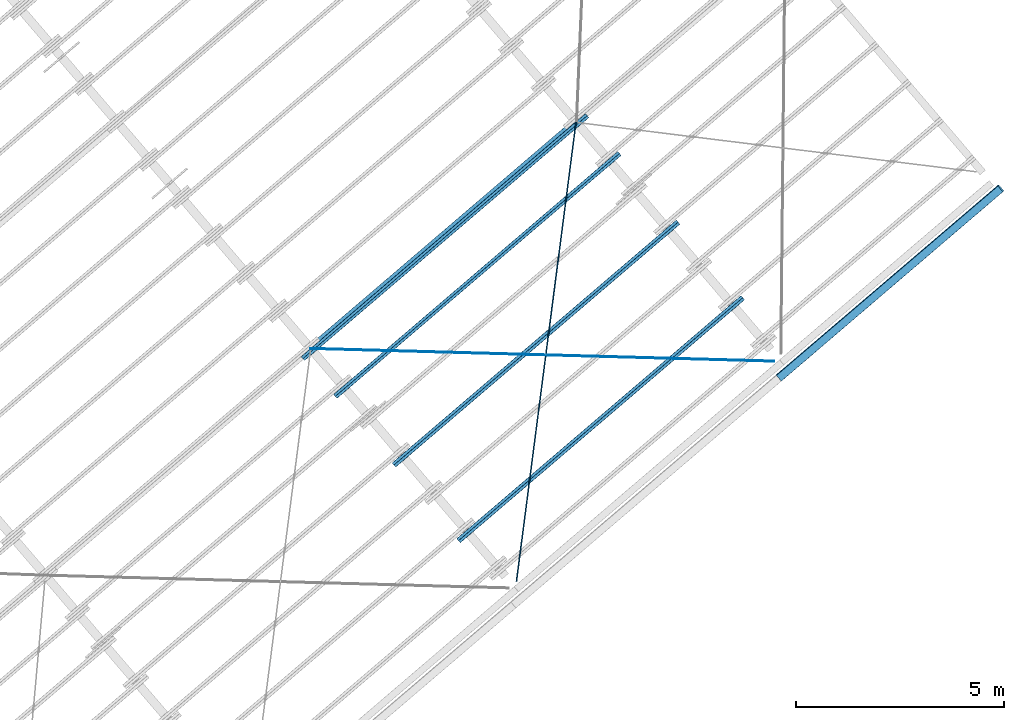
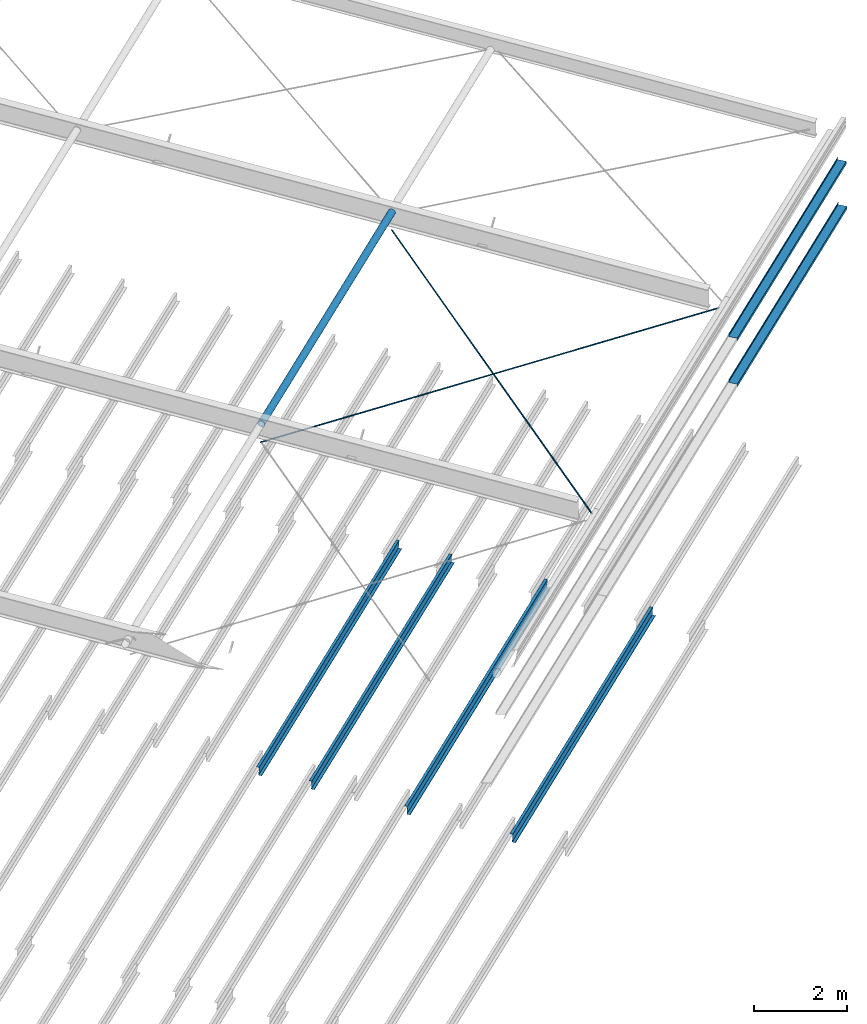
# One storey, part 15 of 25: 7 beams, 2 members, 2 elements without a shape of their own.
"""IFC2X3 building model written with IfcOpenShell, lengths in millimetres."""

from ifc_helpers import new_model, entity, si_unit, converted_unit, derived_unit, direction, frame, frame_2d, origin, origin_2d_with_axis, place, context, subcontext, project, spatial, polyline, circle_curve, parameter, trimmed, segment, composite_curve, circle, hollow_circle, outline, extrude, source, transform, mapped, material, type_object, type_shapes, element, aggregate, save


model = new_model("IFC2X3")

# Units and contexts
model_context = context("Model", 3, precision=0.01, world=origin(), true_north=direction((6.123031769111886e-17, 1.0)))
body_context = subcontext(model_context, "Body", "Model", "MODEL_VIEW")
ifc_project = project(units=[si_unit("LENGTHUNIT", "METRE", prefix="MILLI"), si_unit("AREAUNIT", "SQUARE_METRE"), si_unit("VOLUMEUNIT", "CUBIC_METRE"), converted_unit("PLANEANGLEUNIT", "DEGREE", entity("IfcRatioMeasure", 0.017453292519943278), si_unit("PLANEANGLEUNIT", "RADIAN"), dimensions=[0, 0, 0, 0, 0, 0, 0]), si_unit("MASSUNIT", "GRAM", prefix="KILO"), derived_unit("MASSDENSITYUNIT", [(si_unit("MASSUNIT", "GRAM", prefix="KILO"), 1), (si_unit("LENGTHUNIT", "METRE"), -3)]), derived_unit("MOMENTOFINERTIAUNIT", [(si_unit("LENGTHUNIT", "METRE"), 4)]), si_unit("TIMEUNIT", "SECOND"), si_unit("FREQUENCYUNIT", "HERTZ"), si_unit("THERMODYNAMICTEMPERATUREUNIT", "DEGREE_CELSIUS"), derived_unit("THERMALTRANSMITTANCEUNIT", [(si_unit("MASSUNIT", "GRAM", prefix="KILO"), 1), (si_unit("THERMODYNAMICTEMPERATUREUNIT", "KELVIN"), -1), (si_unit("TIMEUNIT", "SECOND"), -3)]), derived_unit("VOLUMETRICFLOWRATEUNIT", [(si_unit("LENGTHUNIT", "METRE"), 3), (si_unit("TIMEUNIT", "SECOND"), -1)]), derived_unit("MASSFLOWRATEUNIT", [(si_unit("MASSUNIT", "GRAM", prefix="KILO"), 1), (si_unit("TIMEUNIT", "SECOND"), -1)]), derived_unit("ROTATIONALFREQUENCYUNIT", [(si_unit("TIMEUNIT", "SECOND"), -1)]), si_unit("ELECTRICCURRENTUNIT", "AMPERE"), si_unit("ELECTRICVOLTAGEUNIT", "VOLT"), si_unit("POWERUNIT", "WATT"), si_unit("FORCEUNIT", "NEWTON", prefix="KILO"), si_unit("ILLUMINANCEUNIT", "LUX"), si_unit("LUMINOUSFLUXUNIT", "LUMEN"), si_unit("LUMINOUSINTENSITYUNIT", "CANDELA"), derived_unit("USERDEFINED", [(si_unit("MASSUNIT", "GRAM", prefix="KILO"), -1), (si_unit("LENGTHUNIT", "METRE"), -2), (si_unit("TIMEUNIT", "SECOND"), 3), (si_unit("LUMINOUSFLUXUNIT", "LUMEN"), 1)]), derived_unit("SOUNDPOWERUNIT", [(si_unit("MASSUNIT", "GRAM", prefix="KILO"), 1), (si_unit("LENGTHUNIT", "METRE"), 2), (si_unit("TIMEUNIT", "SECOND"), -3)]), derived_unit("LINEARVELOCITYUNIT", [(si_unit("LENGTHUNIT", "METRE"), 1), (si_unit("TIMEUNIT", "SECOND"), -1)]), si_unit("PRESSUREUNIT", "PASCAL"), derived_unit("USERDEFINED", [(si_unit("LENGTHUNIT", "METRE"), -2), (si_unit("MASSUNIT", "GRAM", prefix="KILO"), 1), (si_unit("TIMEUNIT", "SECOND"), -2)]), derived_unit("LINEARFORCEUNIT", [(si_unit("MASSUNIT", "GRAM", prefix="KILO"), 1), (si_unit("LENGTHUNIT", "METRE"), 1), (si_unit("TIMEUNIT", "SECOND"), -2), (si_unit("LENGTHUNIT", "METRE"), -1)]), derived_unit("PLANARFORCEUNIT", [(si_unit("MASSUNIT", "GRAM", prefix="KILO"), 1), (si_unit("LENGTHUNIT", "METRE"), 1), (si_unit("TIMEUNIT", "SECOND"), -2), (si_unit("LENGTHUNIT", "METRE"), -2)])], contexts=[model_context])

# Site, building, storey
site_placement = place(None, frame((962.4174930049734, -6014.433753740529, 0.0), z_axis=(0.0, 0.0, 1.0), x_axis=(0.7601792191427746, 0.649713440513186, 0.0)))
site = spatial("IfcSite", under=ifc_project, at=site_placement, Name="Default", CompositionType="ELEMENT")
building_placement = place(site_placement, origin())
building = spatial("IfcBuilding", under=site, at=building_placement, CompositionType="ELEMENT")
storey_placement = place(building_placement, frame((0.0, 0.0, 9200.0)))
storey = spatial("IfcBuildingStorey", under=building, at=storey_placement, Name="TOP OF CEILING", CompositionType="ELEMENT", Elevation=9200.000000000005)

# Beams
ifc_material_1 = material(Name="Metal - Steel - 300 MPa")
beam_type_1 = type_object("IfcBeamType", Name="ADSK_AU_CHS-Circular Hollow Sections (AS 1163_C350):168.3x6.4CHS", PredefinedType="NOTDEFINED")
beam_1_placement = place(storey_placement, frame((179138.9602047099, -18370.815582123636, 2557.8785563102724), z_axis=(0.0, 0.0, 1.0), x_axis=(-1.0, 0.0, 0.0)))
element("IfcBeam", 1, at=beam_1_placement, inside=storey, type_object=beam_type_1, material=ifc_material_1, Name="ADSK_AU_CHS-Circular Hollow Sections (AS 1163_C350):168.3x6.4CHS", ObjectType="ADSK_AU_CHS-Circular Hollow Sections (AS 1163_C350):168.3x6.4CHS", context=body_context, shape_type="SweptSolid", body=[
    extrude(hollow_circle(Radius=84.15000000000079, WallThickness=6.4000000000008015, at=origin_2d_with_axis()), frame((0.0, 0.0, -84.15000000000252), z_axis=(1.0, 0.0, 0.0), x_axis=(0.0, 1.0, 0.0)), (0.0, 0.0, 1.0), 8387.199999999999),
])
beam_type_2 = type_object("IfcBeamType", Name="ADSK_AU_Round Bars (AS 3679_1):24ROD", PredefinedType="NOTDEFINED")
beam_2_placement = place(storey_placement, frame((170738.96020471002, -18370.81558212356, 2010.0), z_axis=(0.013765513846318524, -0.012433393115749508, 0.9998279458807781), x_axis=(0.7419742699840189, -0.6701716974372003, -0.018549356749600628)))
element("IfcBeam", 2, at=beam_2_placement, inside=storey, type_object=beam_type_2, Name="ADSK_AU_Round Bars (AS 3679_1):24ROD", ObjectType="ADSK_AU_Round Bars (AS 3679_1):24ROD", context=body_context, shape_type="SweptSolid", body=[
    extrude(circle(Radius=11.999999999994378, at=frame_2d((1.6071956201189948e-12, 1.0799880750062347e-11), x_axis=(1.0, 0.0))), frame((-13.376352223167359, 0.0, -12.0), z_axis=(1.0, 0.0, 0.0), x_axis=(0.0, -1.0, 0.0)), (0.0, 0.0, 1.0), 11170.100000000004),
])
beam_3_placement = place(storey_placement, frame((179138.96020471, -18370.81558212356, 2010.0), z_axis=(-0.013765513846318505, -0.012433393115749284, 0.9998279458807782), x_axis=(-0.7419742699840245, -0.6701716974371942, -0.01854935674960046)))
element("IfcBeam", 3, at=beam_3_placement, inside=storey, type_object=beam_type_2, Name="ADSK_AU_Round Bars (AS 3679_1):24ROD", ObjectType="ADSK_AU_Round Bars (AS 3679_1):24ROD", context=body_context, shape_type="SweptSolid", body=[
    extrude(circle(Radius=11.999999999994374, at=frame_2d((-1.6071956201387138e-12, 1.0799880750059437e-11), x_axis=(1.0, 0.0))), frame((0.023647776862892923, 0.0, -12.0), z_axis=(1.0, 0.0, 0.0), x_axis=(0.0, -1.0, 0.0)), (0.0, 0.0, 1.0), 11156.700000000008),
])

# Assembly, beams
assembly_1_placement = place(storey_placement, origin())
assembly_1 = element("IfcElementAssembly", 4, at=assembly_1_placement, inside=storey, Name="Structural Beam System:Structural Beam System 1", ObjectType="Structural Beam System:Structural Beam System 1", AssemblyPlace="NOTDEFINED", PredefinedType="BEAM_GRID")
ifc_material_2 = material(Name="Metal - Steel - 345 MPa")
beam_type_3 = type_object("IfcBeamType", Name="ADSK_AU_Light Gauge-Zeds:Z20015", PredefinedType="NOTDEFINED")
beam_4_placement = place(building_placement, frame((179438.96020471, -18431.54781905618, 2901.1490110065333), z_axis=(0.0, 0.0, 1.0), x_axis=(-1.0, 0.0, 0.0)))
beam_4 = element("IfcBeam", 5, at=beam_4_placement, type_object=beam_type_3, material=ifc_material_2, Name="ADSK_AU_Light Gauge-Zeds:Z20015", ObjectType="ADSK_AU_Light Gauge-Zeds:Z20015", context=body_context, shape_type="SweptSolid", body=[
    extrude(outline(composite_curve([segment(polyline([(100.0, 1.0), (100.0, -69.0)]), True, "CONTINUOUS"), segment(trimmed(circle_curve(frame_2d((98.0, -69.0), x_axis=(0.0, -1.0)), 2.000000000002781), [parameter(0.0)], [parameter(89.99999999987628)], True, "PARAMETER"), False, "CONTINUOUS"), segment(polyline([(98.0, -71.0), (81.4999999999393, -71.0)]), True, "CONTINUOUS"), segment(polyline([(81.4999999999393, -71.0), (81.49999999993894, -72.50000000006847)]), True, "CONTINUOUS"), segment(polyline([(81.49999999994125, -72.50000000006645), (98.0, -72.50000000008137)]), True, "CONTINUOUS"), segment(trimmed(circle_curve(frame_2d((98.0, -69.0), x_axis=(1.0, 0.0)), 3.5000000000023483), [parameter(270.00000000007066)], [parameter(0.0)], True, "PARAMETER"), True, "CONTINUOUS"), segment(polyline([(101.49999999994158, -69.0), (101.50000000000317, 1.0)]), True, "CONTINUOUS"), segment(trimmed(circle_curve(frame_2d((98.0, 1.0), x_axis=(0.0, 1.0)), 3.500000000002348), [parameter(270.00000000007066)], [parameter(0.0)], True, "PARAMETER"), True, "CONTINUOUS"), segment(polyline([(98.0, 4.499999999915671), (-98.0, 4.500000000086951)]), True, "CONTINUOUS"), segment(trimmed(circle_curve(frame_2d((-98.0, 6.500000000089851), x_axis=(-1.0, 0.0)), 2.0000000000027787), [parameter(0.0)], [parameter(89.99999999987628)], True, "PARAMETER"), False, "CONTINUOUS"), segment(polyline([(-100.0, 6.500000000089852), (-100.0, 64.0)]), True, "CONTINUOUS"), segment(trimmed(circle_curve(frame_2d((-98.0, 64.0), x_axis=(0.0, 1.0)), 2.000000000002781), [parameter(0.0)], [parameter(89.99999999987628)], True, "PARAMETER"), False, "CONTINUOUS"), segment(polyline([(-98.0, 66.0), (-81.49999999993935, 66.0)]), True, "CONTINUOUS"), segment(polyline([(-81.49999999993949, 66.0), (-81.49999999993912, 67.50000000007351)]), True, "CONTINUOUS"), segment(polyline([(-81.49999999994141, 67.50000000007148), (-98.0, 67.50000000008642)]), True, "CONTINUOUS"), segment(trimmed(circle_curve(frame_2d((-98.0, 64.0), x_axis=(-1.0, 0.0)), 3.500000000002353), [parameter(270.00000000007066)], [parameter(0.0)], True, "PARAMETER"), True, "CONTINUOUS"), segment(polyline([(-101.49999999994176, 64.0), (-101.49999999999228, 6.500000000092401)]), True, "CONTINUOUS"), segment(trimmed(circle_curve(frame_2d((-98.0, 6.500000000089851), x_axis=(0.0, -1.0)), 3.5000000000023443), [parameter(270.00000000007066)], [parameter(0.0)], True, "PARAMETER"), True, "CONTINUOUS"), segment(polyline([(-98.0, 3.0), (98.0, 3.0)]), True, "CONTINUOUS"), segment(trimmed(circle_curve(frame_2d((98.0, 1.0), x_axis=(1.0, 0.0)), 2.000000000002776), [parameter(0.0)], [parameter(89.99999999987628)], True, "PARAMETER"), False, "CONTINUOUS")], self_intersect=False)), frame((0.0, -2.59124385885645, -101.56665523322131), z_axis=(-1.0, 0.0, 0.0), x_axis=(0.0, -0.06975647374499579, -0.9975640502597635)), (0.0, 0.0, -1.0), 9000.000000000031),
])
beam_5_placement = place(building_placement, frame((179438.96020471, -19628.624679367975, 2817.4412425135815), z_axis=(0.0, 0.0, 1.0), x_axis=(-1.0, 0.0, 0.0)))
beam_5 = element("IfcBeam", 6, at=beam_5_placement, type_object=beam_type_3, material=ifc_material_2, Name="ADSK_AU_Light Gauge-Zeds:Z20015", ObjectType="ADSK_AU_Light Gauge-Zeds:Z20015", context=body_context, shape_type="SweptSolid", body=[
    extrude(outline(composite_curve([segment(polyline([(100.0, 1.0), (100.0, -69.0)]), True, "CONTINUOUS"), segment(trimmed(circle_curve(frame_2d((98.0, -69.0), x_axis=(0.0, -1.0)), 1.9999999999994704), [parameter(0.0)], [parameter(90.00000000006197)], True, "PARAMETER"), False, "CONTINUOUS"), segment(polyline([(98.0, -71.0), (81.50000000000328, -71.0)]), True, "CONTINUOUS"), segment(polyline([(81.50000000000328, -71.0), (81.50000000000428, -72.49999999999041)]), True, "CONTINUOUS"), segment(polyline([(81.50000000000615, -72.4999999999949), (98.0, -72.49999999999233)]), True, "CONTINUOUS"), segment(trimmed(circle_curve(frame_2d((98.0, -69.0), x_axis=(1.0, 0.0)), 3.499999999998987), [parameter(269.99999999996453)], [parameter(0.0)], True, "PARAMETER"), True, "CONTINUOUS"), segment(polyline([(101.50000000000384, -69.0), (101.5000000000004, 1.0)]), True, "CONTINUOUS"), segment(trimmed(circle_curve(frame_2d((98.0, 1.0), x_axis=(0.0, 1.0)), 3.4999999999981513), [parameter(269.99999999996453)], [parameter(0.0)], True, "PARAMETER"), True, "CONTINUOUS"), segment(polyline([(98.0, 4.500000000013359), (-98.0, 4.500000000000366)]), True, "CONTINUOUS"), segment(trimmed(circle_curve(frame_2d((-98.0, 6.499999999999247), x_axis=(-1.0, 0.0)), 1.9999999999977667), [parameter(0.0)], [parameter(90.00000000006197)], True, "PARAMETER"), False, "CONTINUOUS"), segment(polyline([(-100.0, 6.499999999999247), (-100.0, 64.0)]), True, "CONTINUOUS"), segment(trimmed(circle_curve(frame_2d((-98.0, 64.0), x_axis=(0.0, 1.0)), 1.9999999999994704), [parameter(0.0)], [parameter(90.00000000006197)], True, "PARAMETER"), False, "CONTINUOUS"), segment(polyline([(-98.0, 66.0), (-81.50000000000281, 66.0)]), True, "CONTINUOUS"), segment(polyline([(-81.50000000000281, 66.0), (-81.50000000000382, 67.50000000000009)]), True, "CONTINUOUS"), segment(polyline([(-81.50000000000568, 67.50000000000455), (-98.0, 67.50000000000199)]), True, "CONTINUOUS"), segment(trimmed(circle_curve(frame_2d((-98.0, 64.0), x_axis=(-1.0, 0.0)), 3.499999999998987), [parameter(269.99999999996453)], [parameter(0.0)], True, "PARAMETER"), True, "CONTINUOUS"), segment(polyline([(-101.50000000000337, 64.0), (-101.50000000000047, 6.499999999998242)]), True, "CONTINUOUS"), segment(trimmed(circle_curve(frame_2d((-98.0, 6.499999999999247), x_axis=(0.0, -1.0)), 3.49999999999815), [parameter(269.99999999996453)], [parameter(0.0)], True, "PARAMETER"), True, "CONTINUOUS"), segment(polyline([(-98.0, 3.0), (98.0, 3.0)]), True, "CONTINUOUS"), segment(trimmed(circle_curve(frame_2d((98.0, 1.0), x_axis=(1.0, 0.0)), 1.9999999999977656), [parameter(0.0)], [parameter(90.00000000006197)], True, "PARAMETER"), False, "CONTINUOUS")], self_intersect=False)), frame((0.0, -2.591243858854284, -101.56665523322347), z_axis=(-1.0, 0.0, 0.0), x_axis=(0.0, -0.06975647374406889, -0.9975640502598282)), (0.0, 0.0, -1.0), 9000.000000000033),
])
aggregate(assembly_1, [beam_4, beam_5])

assembly_2_placement = place(storey_placement, origin())
assembly_2 = element("IfcElementAssembly", 7, at=assembly_2_placement, inside=storey, Name="Structural Beam System:Structural Beam System 1", ObjectType="Structural Beam System:Structural Beam System 1", AssemblyPlace="NOTDEFINED", PredefinedType="BEAM_GRID")
ifc_material_3 = material(Name="Metal - Light Gauge")
beam_type_4 = type_object("IfcBeamType", Name="ADSK_AU_Light Gauge-Zeds:Z20024", PredefinedType="NOTDEFINED")
beam_6_placement = place(building_placement, frame((179438.56020470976, -21800.485312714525, 2665.569952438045), z_axis=(0.0, 0.0, 1.0), x_axis=(-1.0, 0.0, 0.0)))
beam_6 = element("IfcBeam", 8, at=beam_6_placement, type_object=beam_type_4, material=ifc_material_3, Name="ADSK_AU_Light Gauge-Zeds:Z20024", ObjectType="ADSK_AU_Light Gauge-Zeds:Z20024", context=body_context, shape_type="SweptSolid", body=[
    extrude(outline(composite_curve([segment(polyline([(99.10000000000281, 1.0300000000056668), (99.10000000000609, -71.66999999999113)]), True, "CONTINUOUS"), segment(trimmed(circle_curve(frame_2d((97.10000000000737, -71.66999999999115), x_axis=(0.0, -1.0)), 1.9999999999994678), [parameter(0.0)], [parameter(90.00000000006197)], True, "PARAMETER"), False, "CONTINUOUS"), segment(polyline([(97.10000000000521, -73.66999999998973), (79.5000000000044, -73.66999999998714)]), True, "CONTINUOUS"), segment(polyline([(79.5000000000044, -73.66999999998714), (79.50000000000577, -76.06999999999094)]), True, "CONTINUOUS"), segment(polyline([(79.50000000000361, -76.06999999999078), (97.10000000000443, -76.06999999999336)]), True, "CONTINUOUS"), segment(trimmed(circle_curve(frame_2d((97.10000000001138, -71.66999999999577), x_axis=(1.0, 0.0)), 4.39999999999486), [parameter(269.9999999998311)], [parameter(0.0)], True, "PARAMETER"), True, "CONTINUOUS"), segment(polyline([(101.50000000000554, -71.66999999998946), (101.50000000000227, 1.030000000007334)]), True, "CONTINUOUS"), segment(trimmed(circle_curve(frame_2d((97.10000000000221, 1.030000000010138), x_axis=(0.0, 1.0)), 4.399999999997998), [parameter(269.9999999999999)], [parameter(0.0)], True, "PARAMETER"), True, "CONTINUOUS"), segment(polyline([(97.10000000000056, 5.430000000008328), (-97.09999999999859, 5.430000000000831)]), True, "CONTINUOUS"), segment(trimmed(circle_curve(frame_2d((-97.10000000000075, 7.429999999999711), x_axis=(-1.0, 0.0)), 1.9999999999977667), [parameter(0.0)], [parameter(90.00000000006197)], True, "PARAMETER"), False, "CONTINUOUS"), segment(polyline([(-99.09999999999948, 7.429999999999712), (-99.10000000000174, 66.02999999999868)]), True, "CONTINUOUS"), segment(trimmed(circle_curve(frame_2d((-97.10000000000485, 66.03000000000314), x_axis=(0.0, 1.0)), 1.9999999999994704), [parameter(0.0)], [parameter(90.00000000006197)], True, "PARAMETER"), False, "CONTINUOUS"), segment(polyline([(-97.1000000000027, 68.03000000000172), (-79.50000000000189, 68.02999999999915)]), True, "CONTINUOUS"), segment(polyline([(-79.50000000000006, 68.02999999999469), (-79.50000000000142, 70.42999999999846)]), True, "CONTINUOUS"), segment(polyline([(-79.50000000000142, 70.42999999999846), (-97.10000000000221, 70.43000000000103)]), True, "CONTINUOUS"), segment(trimmed(circle_curve(frame_2d((-97.10000000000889, 66.03000000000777), x_axis=(-1.0, 0.0)), 4.3999999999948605), [parameter(269.9999999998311)], [parameter(0.0)], True, "PARAMETER"), True, "CONTINUOUS"), segment(polyline([(-101.50000000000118, 66.029999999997), (-101.49999999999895, 7.429999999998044)]), True, "CONTINUOUS"), segment(trimmed(circle_curve(frame_2d((-97.10000000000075, 7.429999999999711), x_axis=(0.0, -1.0)), 4.399999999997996), [parameter(269.9999999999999)], [parameter(0.0)], True, "PARAMETER"), True, "CONTINUOUS"), segment(polyline([(-97.0999999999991, 3.030000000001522), (97.10000000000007, 3.030000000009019)]), True, "CONTINUOUS"), segment(trimmed(circle_curve(frame_2d((97.10000000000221, 1.030000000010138), x_axis=(1.0, 0.0)), 1.9999999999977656), [parameter(0.0)], [parameter(90.00000000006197)], True, "PARAMETER"), False, "CONTINUOUS")], self_intersect=False)), frame((0.0, -1.6635092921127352, -101.63152875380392), z_axis=(-1.0, 0.0, 0.0), x_axis=(0.0, -0.06975647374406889, -0.9975640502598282)), (0.0, 0.0, -1.0), 9000.000000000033),
])
beam_7_placement = place(building_placement, frame((179438.56020470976, -24194.639033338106, 2498.154415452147), z_axis=(0.0, 0.0, 1.0), x_axis=(-1.0, 0.0, 0.0)))
beam_7 = element("IfcBeam", 9, at=beam_7_placement, type_object=beam_type_4, material=ifc_material_3, Name="ADSK_AU_Light Gauge-Zeds:Z20024", ObjectType="ADSK_AU_Light Gauge-Zeds:Z20024", context=body_context, shape_type="SweptSolid", body=[
    extrude(outline(composite_curve([segment(polyline([(99.10000000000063, 1.0300000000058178), (99.10000000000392, -71.66999999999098)]), True, "CONTINUOUS"), segment(trimmed(circle_curve(frame_2d((97.1000000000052, -71.66999999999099), x_axis=(0.0, -1.0)), 1.9999999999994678), [parameter(0.0)], [parameter(90.00000000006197)], True, "PARAMETER"), False, "CONTINUOUS"), segment(polyline([(97.10000000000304, -73.66999999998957), (79.50000000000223, -73.66999999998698)]), True, "CONTINUOUS"), segment(polyline([(79.50000000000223, -73.66999999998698), (79.5000000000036, -76.06999999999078)]), True, "CONTINUOUS"), segment(polyline([(79.50000000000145, -76.06999999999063), (97.10000000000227, -76.0699999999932)]), True, "CONTINUOUS"), segment(trimmed(circle_curve(frame_2d((97.10000000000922, -71.66999999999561), x_axis=(1.0, 0.0)), 4.39999999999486), [parameter(269.9999999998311)], [parameter(0.0)], True, "PARAMETER"), True, "CONTINUOUS"), segment(polyline([(101.50000000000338, -71.66999999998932), (101.50000000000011, 1.030000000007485)]), True, "CONTINUOUS"), segment(trimmed(circle_curve(frame_2d((97.10000000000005, 1.0300000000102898), x_axis=(0.0, 1.0)), 4.399999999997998), [parameter(269.9999999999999)], [parameter(0.0)], True, "PARAMETER"), True, "CONTINUOUS"), segment(polyline([(97.09999999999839, 5.43000000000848), (-97.10000000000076, 5.430000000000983)]), True, "CONTINUOUS"), segment(trimmed(circle_curve(frame_2d((-97.10000000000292, 7.429999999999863), x_axis=(-1.0, 0.0)), 1.9999999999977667), [parameter(0.0)], [parameter(90.00000000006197)], True, "PARAMETER"), False, "CONTINUOUS"), segment(polyline([(-99.10000000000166, 7.429999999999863), (-99.1000000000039, 66.02999999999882)]), True, "CONTINUOUS"), segment(trimmed(circle_curve(frame_2d((-97.10000000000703, 66.0300000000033), x_axis=(0.0, 1.0)), 1.9999999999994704), [parameter(0.0)], [parameter(90.00000000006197)], True, "PARAMETER"), False, "CONTINUOUS"), segment(polyline([(-97.10000000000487, 68.03000000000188), (-79.50000000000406, 68.0299999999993)]), True, "CONTINUOUS"), segment(polyline([(-79.50000000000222, 68.02999999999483), (-79.50000000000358, 70.42999999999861)]), True, "CONTINUOUS"), segment(polyline([(-79.50000000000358, 70.42999999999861), (-97.10000000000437, 70.43000000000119)]), True, "CONTINUOUS"), segment(trimmed(circle_curve(frame_2d((-97.10000000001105, 66.03000000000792), x_axis=(-1.0, 0.0)), 4.3999999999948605), [parameter(269.9999999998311)], [parameter(0.0)], True, "PARAMETER"), True, "CONTINUOUS"), segment(polyline([(-101.50000000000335, 66.02999999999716), (-101.50000000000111, 7.429999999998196)]), True, "CONTINUOUS"), segment(trimmed(circle_curve(frame_2d((-97.10000000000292, 7.429999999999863), x_axis=(0.0, -1.0)), 4.399999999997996), [parameter(269.9999999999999)], [parameter(0.0)], True, "PARAMETER"), True, "CONTINUOUS"), segment(polyline([(-97.10000000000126, 3.030000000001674), (97.09999999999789, 3.03000000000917)]), True, "CONTINUOUS"), segment(trimmed(circle_curve(frame_2d((97.10000000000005, 1.0300000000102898), x_axis=(1.0, 0.0)), 1.9999999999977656), [parameter(0.0)], [parameter(90.00000000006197)], True, "PARAMETER"), False, "CONTINUOUS")], self_intersect=False)), frame((0.0, -1.6635092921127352, -101.6315287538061), z_axis=(-1.0, 0.0, 0.0), x_axis=(0.0, -0.06975647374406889, -0.9975640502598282)), (0.0, 0.0, -1.0), 9000.000000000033),
])
aggregate(assembly_2, [beam_6, beam_7])

# Members
member_type_1 = type_object("IfcMemberType", Name="ADSK_AU_Light Gauge-Zeds:Z20015", PredefinedType="BRACE", material=ifc_material_2)
shared_shape_1 = source(origin(), body_context, "Body", "SweptSolid", [
    extrude(outline(composite_curve([segment(polyline([(-98.0, -67.50000000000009), (-81.49999999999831, -67.50000000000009)]), True, "CONTINUOUS"), segment(polyline([(-81.49999999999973, -67.50000000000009), (-81.49999999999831, -66.0)]), True, "CONTINUOUS"), segment(polyline([(-81.49999999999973, -66.0), (-98.0, -66.0)]), True, "CONTINUOUS"), segment(trimmed(circle_curve(frame_2d((-98.0, -64.0), x_axis=(0.0, -1.0)), 2.0000000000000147), [parameter(270.00000000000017)], [parameter(0.0)], True, "PARAMETER"), False, "CONTINUOUS"), segment(polyline([(-100.0, -64.0), (-100.0, -6.500000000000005)]), True, "CONTINUOUS"), segment(trimmed(circle_curve(frame_2d((-98.0, -6.500000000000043), x_axis=(-1.0, 0.0)), 2.000000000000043), [parameter(270.000000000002)], [parameter(0.0)], True, "PARAMETER"), False, "CONTINUOUS"), segment(polyline([(-98.0, -4.499999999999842), (98.0, -4.499999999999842)]), True, "CONTINUOUS"), segment(trimmed(circle_curve(frame_2d((98.0, -1.0), x_axis=(0.0, -1.0)), 3.500000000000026), [parameter(0.0)], [parameter(89.99999999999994)], True, "PARAMETER"), True, "CONTINUOUS"), segment(polyline([(101.49999999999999, -1.0), (101.5000000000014, 69.0)]), True, "CONTINUOUS"), segment(trimmed(circle_curve(frame_2d((98.0, 69.0), x_axis=(1.0, 0.0)), 3.4999999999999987), [parameter(0.0)], [parameter(90.00000000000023)], True, "PARAMETER"), True, "CONTINUOUS"), segment(polyline([(98.0, 72.49999999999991), (81.50000000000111, 72.49999999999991)]), True, "CONTINUOUS"), segment(polyline([(81.49999999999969, 72.49999999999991), (81.50000000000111, 71.0)]), True, "CONTINUOUS"), segment(polyline([(81.49999999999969, 71.0), (98.0, 71.0)]), True, "CONTINUOUS"), segment(trimmed(circle_curve(frame_2d((98.0, 69.0), x_axis=(0.0, 1.0)), 2.000000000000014), [parameter(270.00000000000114)], [parameter(0.0)], True, "PARAMETER"), False, "CONTINUOUS"), segment(polyline([(100.0, 69.0), (100.0, -1.0)]), True, "CONTINUOUS"), segment(trimmed(circle_curve(frame_2d((98.0, -1.0), x_axis=(1.0, 0.0)), 1.9999999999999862), [parameter(269.99999999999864)], [parameter(0.0)], True, "PARAMETER"), False, "CONTINUOUS"), segment(polyline([(98.0, -3.0), (-98.0, -3.0)]), True, "CONTINUOUS"), segment(trimmed(circle_curve(frame_2d((-98.0, -6.499999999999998), x_axis=(0.0, 1.0)), 3.5000000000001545), [parameter(0.0)], [parameter(89.99999999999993)], True, "PARAMETER"), True, "CONTINUOUS"), segment(polyline([(-101.50000000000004, -6.50000000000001), (-101.49999999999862, -64.0)]), True, "CONTINUOUS"), segment(trimmed(circle_curve(frame_2d((-98.0, -64.0), x_axis=(-1.0, 0.0)), 3.500000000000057), [parameter(0.0)], [parameter(89.99999999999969)], True, "PARAMETER"), True, "CONTINUOUS")], self_intersect=False)), frame((-3614.4999999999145, 4.499999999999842, 0.0), z_axis=(1.0, 0.0, 0.0), x_axis=(0.0, 0.0, -1.0)), (0.0, 0.0, 1.0), 7046.799999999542),
])
type_shapes(member_type_1, [shared_shape_1])
member_1_placement = place(storey_placement, frame((182453.46020471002, -26224.928082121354, 22.89999999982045), z_axis=(0.0, 1.0, 0.0), x_axis=(1.0, 0.0, 0.0)))
element("IfcMember", 10, at=member_1_placement, inside=storey, type_object=member_type_1, material=ifc_material_2, Name="ADSK_AU_Light Gauge-Zeds:Z20015", ObjectType="ADSK_AU_Light Gauge-Zeds:Z20015", context=body_context, shape_type="MappedRepresentation", body=[
    mapped(shared_shape_1, transform((0.0, 0.0, 0.0), scale=1.0)),
])
member_type_2 = type_object("IfcMemberType", Name="ADSK_AU_Light Gauge-Zeds:Z20015", PredefinedType="BRACE", material=ifc_material_2)
shared_shape_2 = source(origin(), body_context, "Body", "SweptSolid", [
    extrude(outline(composite_curve([segment(polyline([(-98.0, -67.50000000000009), (-81.4999999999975, -67.50000000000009)]), True, "CONTINUOUS"), segment(polyline([(-81.49999999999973, -67.50000000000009), (-81.4999999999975, -66.0)]), True, "CONTINUOUS"), segment(polyline([(-81.49999999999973, -66.0), (-98.0, -66.0)]), True, "CONTINUOUS"), segment(trimmed(circle_curve(frame_2d((-98.0, -64.0), x_axis=(0.0, -1.0)), 2.0000000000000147), [parameter(270.00000000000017)], [parameter(0.0)], True, "PARAMETER"), False, "CONTINUOUS"), segment(polyline([(-100.0, -64.0), (-100.0, -6.500000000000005)]), True, "CONTINUOUS"), segment(trimmed(circle_curve(frame_2d((-98.0, -6.499999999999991), x_axis=(-1.0, 0.0)), 1.999999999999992), [parameter(269.99999999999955)], [parameter(0.0)], True, "PARAMETER"), False, "CONTINUOUS"), segment(polyline([(-98.0, -4.499999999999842), (98.0, -4.499999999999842)]), True, "CONTINUOUS"), segment(trimmed(circle_curve(frame_2d((98.0, -1.0), x_axis=(0.0, -1.0)), 3.500000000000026), [parameter(0.0)], [parameter(89.99999999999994)], True, "PARAMETER"), True, "CONTINUOUS"), segment(polyline([(101.49999999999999, -1.0), (101.50000000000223, 69.0)]), True, "CONTINUOUS"), segment(trimmed(circle_curve(frame_2d((98.0, 69.0), x_axis=(1.0, 0.0)), 3.4999999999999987), [parameter(0.0)], [parameter(90.00000000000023)], True, "PARAMETER"), True, "CONTINUOUS"), segment(polyline([(98.0, 72.49999999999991), (81.50000000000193, 72.49999999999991)]), True, "CONTINUOUS"), segment(polyline([(81.49999999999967, 72.49999999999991), (81.50000000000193, 71.0)]), True, "CONTINUOUS"), segment(polyline([(81.49999999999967, 71.0), (98.0, 71.0)]), True, "CONTINUOUS"), segment(trimmed(circle_curve(frame_2d((98.0, 69.0), x_axis=(0.0, 1.0)), 2.000000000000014), [parameter(270.00000000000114)], [parameter(0.0)], True, "PARAMETER"), False, "CONTINUOUS"), segment(polyline([(100.0, 69.0), (100.0, -1.0)]), True, "CONTINUOUS"), segment(trimmed(circle_curve(frame_2d((98.0, -1.0), x_axis=(1.0, 0.0)), 1.9999999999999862), [parameter(269.99999999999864)], [parameter(0.0)], True, "PARAMETER"), False, "CONTINUOUS"), segment(polyline([(98.0, -3.0), (-98.0, -3.0)]), True, "CONTINUOUS"), segment(trimmed(circle_curve(frame_2d((-98.0, -6.500000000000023), x_axis=(0.0, 1.0)), 3.500000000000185), [parameter(0.0)], [parameter(89.9999999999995)], True, "PARAMETER"), True, "CONTINUOUS"), segment(polyline([(-101.50000000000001, -6.50000000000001), (-101.49999999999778, -64.0)]), True, "CONTINUOUS"), segment(trimmed(circle_curve(frame_2d((-98.0, -64.0), x_axis=(-1.0, 0.0)), 3.500000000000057), [parameter(0.0)], [parameter(89.99999999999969)], True, "PARAMETER"), True, "CONTINUOUS")], self_intersect=False)), frame((-3764.4999999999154, 4.499999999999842, 0.0), z_axis=(1.0, 0.0, 0.0), x_axis=(0.0, 0.0, -1.0)), (0.0, 0.0, 1.0), 7012.599999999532),
])
type_shapes(member_type_2, [shared_shape_2])
member_2_placement = place(storey_placement, frame((182603.46020471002, -26224.928082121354, 1222.8999999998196), z_axis=(0.0, 1.0, 0.0), x_axis=(1.0, 0.0, 0.0)))
element("IfcMember", 11, at=member_2_placement, inside=storey, type_object=member_type_2, material=ifc_material_2, Name="ADSK_AU_Light Gauge-Zeds:Z20015", ObjectType="ADSK_AU_Light Gauge-Zeds:Z20015", context=body_context, shape_type="MappedRepresentation", body=[
    mapped(shared_shape_2, transform((0.0, 0.0, 0.0), scale=1.0)),
])

save(model, "model.ifc")
